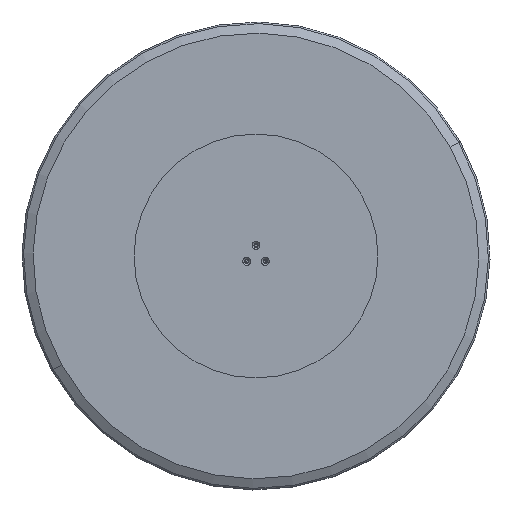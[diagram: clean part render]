
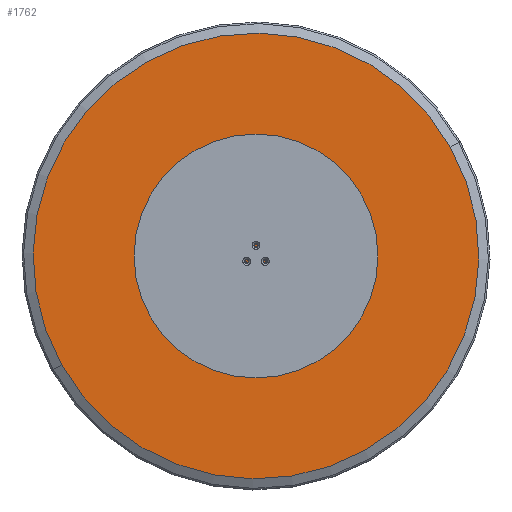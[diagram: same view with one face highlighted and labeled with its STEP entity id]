
A CAD part, front view. The second image highlights one B-rep face of the part: STEP entity #1762.
In plain terms, the highlighted planar face has unit normal (0, -1, 0).
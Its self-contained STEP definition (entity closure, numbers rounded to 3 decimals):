
#29 = EDGE_LOOP ( 'NONE', ( #2796, #228 ) ) ;
#30 = CIRCLE ( 'NONE', #2466, 3.4 ) ;
#109 = CIRCLE ( 'NONE', #528, 3.4 ) ;
#142 = ORIENTED_EDGE ( 'NONE', *, *, #2093, .T. ) ;
#160 = DIRECTION ( 'NONE',  ( 0., 0., 1. ) ) ;
#178 = AXIS2_PLACEMENT_3D ( 'NONE', #4041, #3332, #2986 ) ;
#228 = ORIENTED_EDGE ( 'NONE', *, *, #2642, .T. ) ;
#299 = VERTEX_POINT ( 'NONE', #465 ) ;
#465 = CARTESIAN_POINT ( 'NONE',  ( 0., 0., 113.097 ) ) ;
#494 = CARTESIAN_POINT ( 'NONE',  ( 95., 0., -54.848 ) ) ;
#528 = AXIS2_PLACEMENT_3D ( 'NONE', #1357, #2396, #3368 ) ;
#590 = DIRECTION ( 'NONE',  ( 0., 1., 0. ) ) ;
#594 = DIRECTION ( 'NONE',  ( 0., 0., 1. ) ) ;
#610 = CARTESIAN_POINT ( 'NONE',  ( 0., 0., 0. ) ) ;
#617 = ORIENTED_EDGE ( 'NONE', *, *, #1682, .T. ) ;
#814 = AXIS2_PLACEMENT_3D ( 'NONE', #494, #3763, #1490 ) ;
#885 = CIRCLE ( 'NONE', #3166, 3.4 ) ;
#950 = DIRECTION ( 'NONE',  ( 0., 0., 1. ) ) ;
#1029 = CARTESIAN_POINT ( 'NONE',  ( -95., 0., -51.448 ) ) ;
#1091 = AXIS2_PLACEMENT_3D ( 'NONE', #2685, #2375, #3359 ) ;
#1154 = EDGE_CURVE ( 'NONE', #299, #1751, #30, .T. ) ;
#1160 = CIRCLE ( 'NONE', #1091, 484.323 ) ;
#1202 = ORIENTED_EDGE ( 'NONE', *, *, #4199, .T. ) ;
#1212 = DIRECTION ( 'NONE',  ( 0., 1., 0. ) ) ;
#1300 = CARTESIAN_POINT ( 'NONE',  ( 0., 0., 109.697 ) ) ;
#1341 = CARTESIAN_POINT ( 'NONE',  ( 0., 0., -484.323 ) ) ;
#1357 = CARTESIAN_POINT ( 'NONE',  ( -95., 0., -54.848 ) ) ;
#1401 = FACE_BOUND ( 'NONE', #4012, .T. ) ;
#1481 = ORIENTED_EDGE ( 'NONE', *, *, #4124, .T. ) ;
#1490 = DIRECTION ( 'NONE',  ( 0., 0., 1. ) ) ;
#1581 = CIRCLE ( 'NONE', #814, 3.4 ) ;
#1610 = DIRECTION ( 'NONE',  ( 0., 1., 0. ) ) ;
#1682 = EDGE_CURVE ( 'NONE', #1703, #3356, #109, .T. ) ;
#1703 = VERTEX_POINT ( 'NONE', #1029 ) ;
#1751 = VERTEX_POINT ( 'NONE', #2673 ) ;
#1762 = ADVANCED_FACE ( 'NONE', ( #1401, #3632, #3690, #3047 ), #2715, .T. ) ;
#1799 = AXIS2_PLACEMENT_3D ( 'NONE', #3862, #590, #3164 ) ;
#2093 = EDGE_CURVE ( 'NONE', #3140, #3897, #3374, .T. ) ;
#2167 = DIRECTION ( 'NONE',  ( 0., 1., 0. ) ) ;
#2221 = DIRECTION ( 'NONE',  ( 0., 0., 1. ) ) ;
#2362 = AXIS2_PLACEMENT_3D ( 'NONE', #610, #1212, #2221 ) ;
#2375 = DIRECTION ( 'NONE',  ( 0., 1., 0. ) ) ;
#2396 = DIRECTION ( 'NONE',  ( 0., 1., 0. ) ) ;
#2466 = AXIS2_PLACEMENT_3D ( 'NONE', #1300, #1610, #950 ) ;
#2549 = CIRCLE ( 'NONE', #2965, 3.4 ) ;
#2642 = EDGE_CURVE ( 'NONE', #1751, #299, #2549, .T. ) ;
#2673 = CARTESIAN_POINT ( 'NONE',  ( 0., 0., 106.297 ) ) ;
#2685 = CARTESIAN_POINT ( 'NONE',  ( 0., 0., 0. ) ) ;
#2695 = CARTESIAN_POINT ( 'NONE',  ( -95., 0., -58.248 ) ) ;
#2715 = PLANE ( 'NONE',  #178 ) ;
#2796 = ORIENTED_EDGE ( 'NONE', *, *, #1154, .T. ) ;
#2919 = CARTESIAN_POINT ( 'NONE',  ( 95., 0., -51.448 ) ) ;
#2948 = CARTESIAN_POINT ( 'NONE',  ( 95., 0., -58.248 ) ) ;
#2965 = AXIS2_PLACEMENT_3D ( 'NONE', #3518, #3561, #594 ) ;
#2986 = DIRECTION ( 'NONE',  ( 0., 0., -1. ) ) ;
#3047 = FACE_OUTER_BOUND ( 'NONE', #3111, .T. ) ;
#3058 = CARTESIAN_POINT ( 'NONE',  ( 0., 0., 484.323 ) ) ;
#3102 = CIRCLE ( 'NONE', #2362, 484.323 ) ;
#3111 = EDGE_LOOP ( 'NONE', ( #3905, #3974 ) ) ;
#3140 = VERTEX_POINT ( 'NONE', #2919 ) ;
#3164 = DIRECTION ( 'NONE',  ( 0., 0., 1. ) ) ;
#3166 = AXIS2_PLACEMENT_3D ( 'NONE', #3440, #2167, #160 ) ;
#3328 = EDGE_LOOP ( 'NONE', ( #142, #1481 ) ) ;
#3332 = DIRECTION ( 'NONE',  ( 0., -1., 0. ) ) ;
#3356 = VERTEX_POINT ( 'NONE', #2695 ) ;
#3359 = DIRECTION ( 'NONE',  ( 0., 0., 1. ) ) ;
#3368 = DIRECTION ( 'NONE',  ( 0., 0., 1. ) ) ;
#3374 = CIRCLE ( 'NONE', #1799, 3.4 ) ;
#3440 = CARTESIAN_POINT ( 'NONE',  ( -95., 0., -54.848 ) ) ;
#3446 = VERTEX_POINT ( 'NONE', #1341 ) ;
#3518 = CARTESIAN_POINT ( 'NONE',  ( 0., 0., 109.697 ) ) ;
#3561 = DIRECTION ( 'NONE',  ( 0., 1., 0. ) ) ;
#3632 = FACE_BOUND ( 'NONE', #3328, .T. ) ;
#3690 = FACE_BOUND ( 'NONE', #29, .T. ) ;
#3763 = DIRECTION ( 'NONE',  ( 0., 1., 0. ) ) ;
#3812 = EDGE_CURVE ( 'NONE', #4081, #3446, #3102, .T. ) ;
#3862 = CARTESIAN_POINT ( 'NONE',  ( 95., 0., -54.848 ) ) ;
#3897 = VERTEX_POINT ( 'NONE', #2948 ) ;
#3905 = ORIENTED_EDGE ( 'NONE', *, *, #3812, .F. ) ;
#3946 = EDGE_CURVE ( 'NONE', #3446, #4081, #1160, .T. ) ;
#3974 = ORIENTED_EDGE ( 'NONE', *, *, #3946, .F. ) ;
#4012 = EDGE_LOOP ( 'NONE', ( #617, #1202 ) ) ;
#4041 = CARTESIAN_POINT ( 'NONE',  ( 0., 0., 0. ) ) ;
#4081 = VERTEX_POINT ( 'NONE', #3058 ) ;
#4124 = EDGE_CURVE ( 'NONE', #3897, #3140, #1581, .T. ) ;
#4199 = EDGE_CURVE ( 'NONE', #3356, #1703, #885, .T. ) ;
